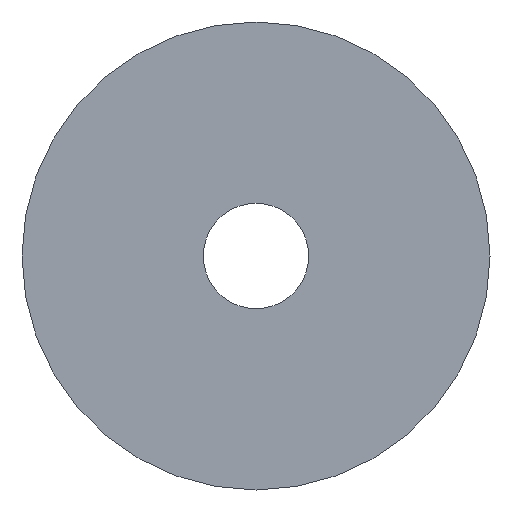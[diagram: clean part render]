
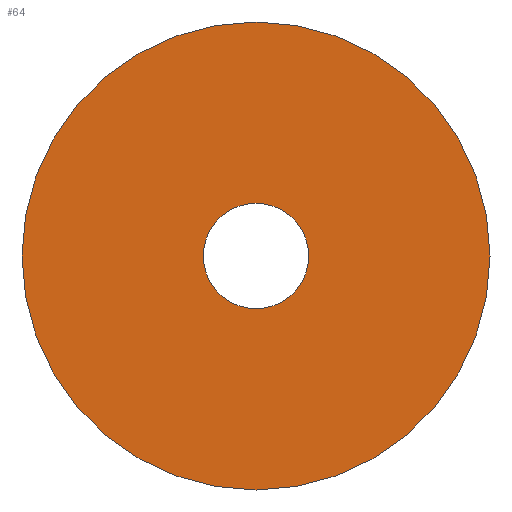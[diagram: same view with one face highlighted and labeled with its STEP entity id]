
A CAD part, left-side view. The second image highlights one B-rep face of the part: STEP entity #64.
In plain terms, the highlighted planar face has unit normal (-1, 0, 0).
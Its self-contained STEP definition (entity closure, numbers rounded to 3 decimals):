
#16=FACE_BOUND('',#28,.T.);
#18=PLANE('',#95);
#22=FACE_OUTER_BOUND('',#27,.T.);
#27=EDGE_LOOP('',(#57));
#28=EDGE_LOOP('',(#58));
#34=CIRCLE('',#90,2.25);
#36=CIRCLE('',#93,10.);
#38=VERTEX_POINT('',#120);
#40=VERTEX_POINT('',#126);
#43=EDGE_CURVE('',#38,#38,#34,.T.);
#46=EDGE_CURVE('',#40,#40,#36,.T.);
#57=ORIENTED_EDGE('',*,*,#46,.F.);
#58=ORIENTED_EDGE('',*,*,#43,.T.);
#64=ADVANCED_FACE('',(#22,#16),#18,.F.);
#90=AXIS2_PLACEMENT_3D('',#122,#103,#104);
#93=AXIS2_PLACEMENT_3D('',#128,#110,#111);
#95=AXIS2_PLACEMENT_3D('',#130,#114,#115);
#103=DIRECTION('center_axis',(1.,0.,0.));
#104=DIRECTION('ref_axis',(0.,0.,-1.));
#110=DIRECTION('center_axis',(1.,0.,0.));
#111=DIRECTION('ref_axis',(0.,1.,0.));
#114=DIRECTION('center_axis',(1.,0.,0.));
#115=DIRECTION('ref_axis',(0.,0.,-1.));
#120=CARTESIAN_POINT('',(0.,0.,2.25));
#122=CARTESIAN_POINT('Origin',(0.,0.,0.));
#126=CARTESIAN_POINT('',(0.,-10.,0.));
#128=CARTESIAN_POINT('Origin',(0.,0.,0.));
#130=CARTESIAN_POINT('Origin',(0.,0.,0.));
